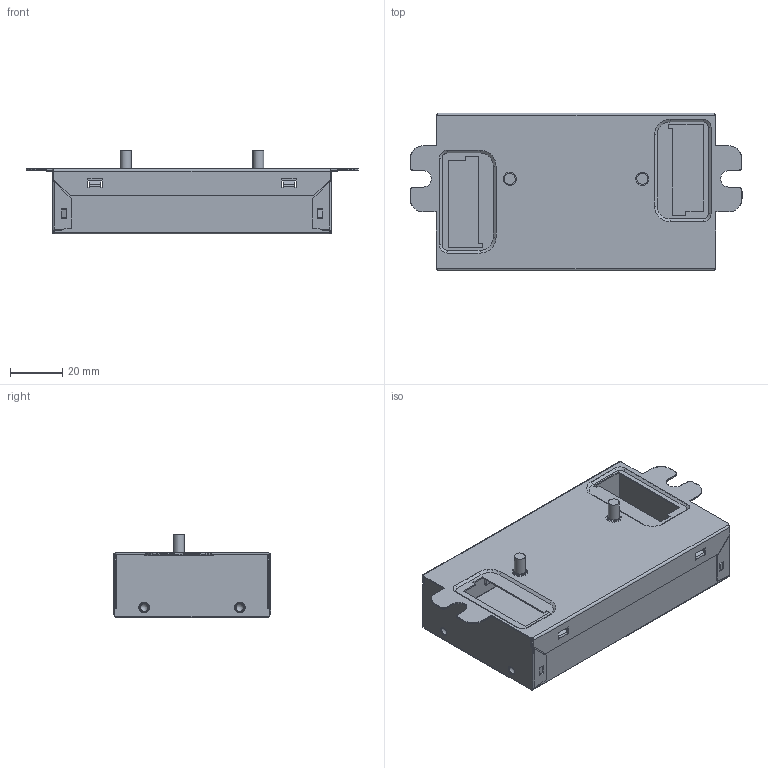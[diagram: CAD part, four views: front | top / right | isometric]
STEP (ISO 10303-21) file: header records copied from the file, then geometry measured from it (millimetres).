
FILE_DESCRIPTION((''),'2;1');
FILE_NAME('D:\Wind\25W 0-10v LED Drivers (SM)\housing\LED 25W\LED 25W.stp','2013-05-02T09:00:53',('310043586'),(''),'Autodesk Inventor 2011','Autodesk Inventor 2011','');
FILE_SCHEMA(('AUTOMOTIVE_DESIGN { 1 0 10303 214 1 1 1 1 }'));
Length unit declared in the file: millimetre
Products named in the file (5): LED 25W; CHASSIS ( MMCFL )_WHITE METAL; 442240868091; PEM_FH832_5
Assembly tree (5 placements, depth 3):
  LED 25W
    CHASSIS ( MMCFL )_WHITE METAL
    442240868091
      442240868091
      PEM_FH832_5  x2
Bounding box: 126.6 x 60.17 x 32.01 mm (x, y, z)
Volume: 10309.7 mm3; surface area: 46327.4 mm2
Topology: 4 solids, 4 shells, 548 faces, 1490 edges, 963 vertices
Faces by surface type: plane 400, cylinder 105, cone 27, torus 8, sphere 8
Full cylindrical faces by diameter (mm): 1.6 x1, 3 x4, 4.14 x2, 4.166 x2, 5 x2, 6 x2
Entity records: 17130 total; most frequent: CARTESIAN_POINT 3085, ORIENTED_EDGE 2902, DIRECTION 2822, EDGE_CURVE 1451, VECTOR 1174, LINE 1174, VERTEX_POINT 951, AXIS2_PLACEMENT_3D 824
